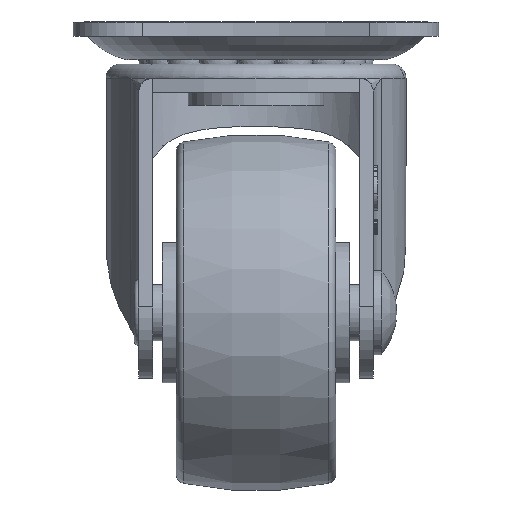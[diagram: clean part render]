
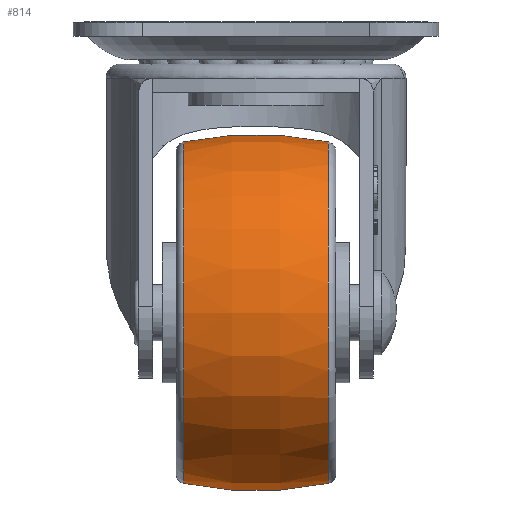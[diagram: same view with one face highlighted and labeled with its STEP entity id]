
A CAD part, left-side view. The second image highlights one B-rep face of the part: STEP entity #814.
In plain terms, the highlighted free-form (B-spline) face has degree [3, 3] with [4, 7] control points.
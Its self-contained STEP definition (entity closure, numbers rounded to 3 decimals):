
#64=(
BOUNDED_SURFACE()
B_SPLINE_SURFACE(3,3,((#9136,#9137,#9138,#9139,#9140,#9141,#9142),(#9143,
#9144,#9145,#9146,#9147,#9148,#9149),(#9150,#9151,#9152,#9153,#9154,#9155,
#9156),(#9157,#9158,#9159,#9160,#9161,#9162,#9163)),.UNSPECIFIED.,.F.,.T.,
 .F.)
B_SPLINE_SURFACE_WITH_KNOTS((4,4),(1,3,3,3,1),(0.,1.),(-0.5,0.,0.5,1.,1.5),
 .UNSPECIFIED.)
GEOMETRIC_REPRESENTATION_ITEM()
RATIONAL_B_SPLINE_SURFACE(((1.,0.333,0.333,1.,0.333,
0.333,1.),(0.986,0.329,0.329,
0.986,0.329,0.329,0.986),
(0.986,0.329,0.329,0.986,
0.329,0.329,0.986),(1.,0.333,
0.333,1.,0.333,0.333,1.)))
REPRESENTATION_ITEM('')
SURFACE()
);
#814=ADVANCED_FACE('',(#2074,#2075),#64,.T.);
#2074=FACE_BOUND('',#2419,.T.);
#2075=FACE_BOUND('',#2420,.T.);
#2419=EDGE_LOOP('',(#3098));
#2420=EDGE_LOOP('',(#3099));
#3098=ORIENTED_EDGE('',*,*,#5431,.T.);
#3099=ORIENTED_EDGE('',*,*,#5432,.T.);
#4782=VERTEX_POINT('',#9133);
#4783=VERTEX_POINT('',#9135);
#5431=EDGE_CURVE('',#4782,#4782,#6238,.T.);
#5432=EDGE_CURVE('',#4783,#4783,#6239,.T.);
#6238=CIRCLE('',#6478,18.211);
#6239=CIRCLE('',#6479,18.211);
#6478=AXIS2_PLACEMENT_3D('',#9132,#7147,#7148);
#6479=AXIS2_PLACEMENT_3D('',#9134,#7149,#7150);
#7147=DIRECTION('',(0.,1.,0.));
#7148=DIRECTION('',(0.,0.,1.));
#7149=DIRECTION('',(0.,-1.,0.));
#7150=DIRECTION('',(0.,0.,-1.));
#9132=CARTESIAN_POINT('',(-17.,-7.703,-31.));
#9133=CARTESIAN_POINT('',(-17.,-7.703,-12.789));
#9134=CARTESIAN_POINT('',(-17.,7.703,-31.));
#9135=CARTESIAN_POINT('',(-17.,7.703,-49.211));
#9136=CARTESIAN_POINT('',(-17.,-7.703,-49.211));
#9137=CARTESIAN_POINT('',(19.422,-7.703,-49.211));
#9138=CARTESIAN_POINT('',(19.422,-7.703,-12.789));
#9139=CARTESIAN_POINT('',(-17.,-7.703,-12.789));
#9140=CARTESIAN_POINT('',(-53.422,-7.703,-12.789));
#9141=CARTESIAN_POINT('',(-53.422,-7.703,-49.211));
#9142=CARTESIAN_POINT('',(-17.,-7.703,-49.211));
#9143=CARTESIAN_POINT('',(-17.,-2.604,-50.267));
#9144=CARTESIAN_POINT('',(21.533,-2.604,-50.267));
#9145=CARTESIAN_POINT('',(21.533,-2.604,-11.733));
#9146=CARTESIAN_POINT('',(-17.,-2.604,-11.733));
#9147=CARTESIAN_POINT('',(-55.533,-2.604,-11.733));
#9148=CARTESIAN_POINT('',(-55.533,-2.604,-50.267));
#9149=CARTESIAN_POINT('',(-17.,-2.604,-50.267));
#9150=CARTESIAN_POINT('',(-17.,2.604,-50.267));
#9151=CARTESIAN_POINT('',(21.533,2.604,-50.267));
#9152=CARTESIAN_POINT('',(21.533,2.604,-11.733));
#9153=CARTESIAN_POINT('',(-17.,2.604,-11.733));
#9154=CARTESIAN_POINT('',(-55.533,2.604,-11.733));
#9155=CARTESIAN_POINT('',(-55.533,2.604,-50.267));
#9156=CARTESIAN_POINT('',(-17.,2.604,-50.267));
#9157=CARTESIAN_POINT('',(-17.,7.703,-49.211));
#9158=CARTESIAN_POINT('',(19.422,7.703,-49.211));
#9159=CARTESIAN_POINT('',(19.422,7.703,-12.789));
#9160=CARTESIAN_POINT('',(-17.,7.703,-12.789));
#9161=CARTESIAN_POINT('',(-53.422,7.703,-12.789));
#9162=CARTESIAN_POINT('',(-53.422,7.703,-49.211));
#9163=CARTESIAN_POINT('',(-17.,7.703,-49.211));
